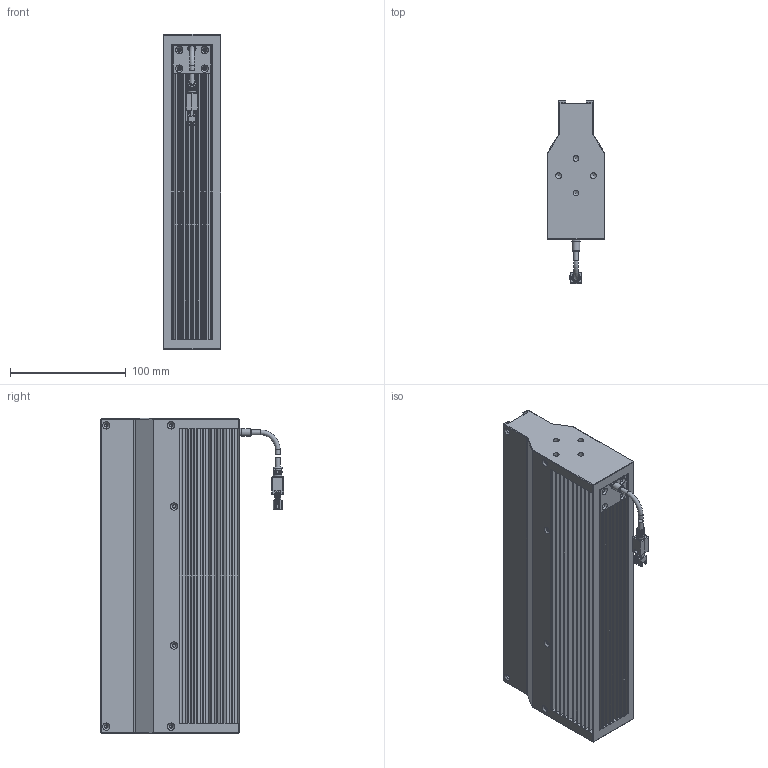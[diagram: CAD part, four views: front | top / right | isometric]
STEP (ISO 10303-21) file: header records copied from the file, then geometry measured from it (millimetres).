
FILE_DESCRIPTION (( 'STEP AP203' ), '1' );
FILE_NAME ('OPT-LSNL272-W-V1.0尨砩芞.STEP', '2025-02-17T09:00:53', ( '' ), ( '' ), 'SwSTEP 2.0', 'SolidWorks 2016', '' );
FILE_SCHEMA (( 'CONFIG_CONTROL_DESIGN' ));
Length unit declared in the file: millimetre
Products named in the file (1): OPT-LSNL272-W-V1.0尨砩芞
Bounding box: 50.02 x 158 x 272 mm (x, y, z)
Volume: 994974.5 mm3; surface area: 326296.1 mm2
Topology: 8 solids, 13 shells, 977 faces, 2694 edges, 1731 vertices
Faces by surface type: plane 584, cylinder 322, cone 42, bspline 21, torus 8
Full cylindrical faces by diameter (mm): 1.1 x2, 1.4 x2, 2.5 x8, 3 x8, 3.4 x16, 3.5 x1, 4.1 x4, 5 x8, 5.8 x1, 6.5 x1, 7 x1, 7.5 x1
Entity records: 33209 total; most frequent: CARTESIAN_POINT 9382, ORIENTED_EDGE 5060, DIRECTION 4639, EDGE_CURVE 2530, VERTEX_POINT 1674, VECTOR 1637, LINE 1637, AXIS2_PLACEMENT_3D 1501
